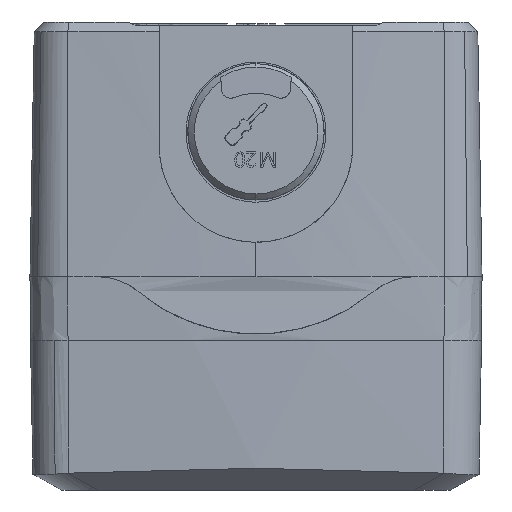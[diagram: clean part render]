
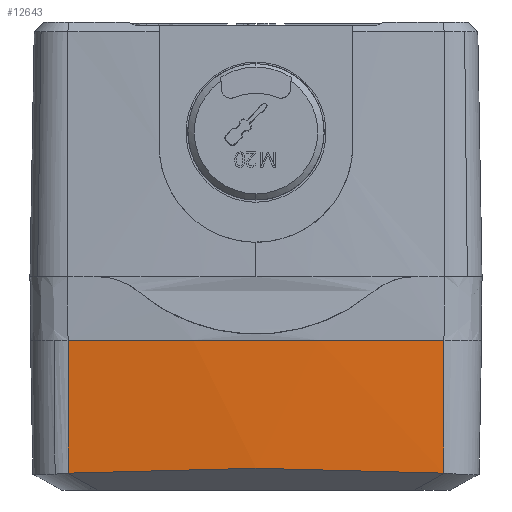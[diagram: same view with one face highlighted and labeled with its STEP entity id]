
A CAD part, left-side view. The second image highlights one B-rep face of the part: STEP entity #12643.
In plain terms, the highlighted conical face has half-angle 1 degrees and reference radius 316.019 mm.
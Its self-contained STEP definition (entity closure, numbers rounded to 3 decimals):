
#4983 = CARTESIAN_POINT ( 'NONE',  ( -141.262, 399.985, -18.854 ) ) ;
#5080 = AXIS2_PLACEMENT_3D ( 'NONE', #21200, #7363, #27659 ) ;
#6283 = VERTEX_POINT ( 'NONE', #9129 ) ;
#7363 = DIRECTION ( 'NONE',  ( 0., 0., 1. ) ) ;
#8539 = CARTESIAN_POINT ( 'NONE',  ( -141.262, 341.015, -18.854 ) ) ;
#9129 = CARTESIAN_POINT ( 'NONE',  ( -141.262, 341.015, -18.854 ) ) ;
#9230 = EDGE_CURVE ( 'NONE', #6283, #33980, #13439, .T. ) ;
#9890 = DIRECTION ( 'NONE',  ( 0., 0., -1. ) ) ;
#10694 = FACE_OUTER_BOUND ( 'NONE', #22405, .T. ) ;
#10970 = CARTESIAN_POINT ( 'NONE',  ( -141.625, 400.019, 2. ) ) ;
#11886 = EDGE_CURVE ( 'NONE', #32156, #38583, #31949, .T. ) ;
#12314 = CARTESIAN_POINT ( 'NONE',  ( -143.122, 380.358, -17.831 ) ) ;
#12393 = CARTESIAN_POINT ( 'NONE',  ( -141.625, 340.98, 2. ) ) ;
#12608 =( BOUNDED_CURVE ( )  B_SPLINE_CURVE ( 3, ( #4983, #12314, #42251, #8539 ),
 .UNSPECIFIED., .F., .F. ) 
 B_SPLINE_CURVE_WITH_KNOTS ( ( 4, 4 ),
 ( 6.189, 6.378 ),
 .UNSPECIFIED. ) 
 CURVE ( )  GEOMETRIC_REPRESENTATION_ITEM ( )  RATIONAL_B_SPLINE_CURVE ( ( 1., 0.997, 0.997, 1. ) ) 
 REPRESENTATION_ITEM ( '' )  );
#12643 = ADVANCED_FACE ( 'NONE', ( #10694 ), #40719, .T. ) ;
#13439 = LINE ( 'NONE', #30600, #24027 ) ;
#18816 = ORIENTED_EDGE ( 'NONE', *, *, #11886, .T. ) ;
#19932 = CARTESIAN_POINT ( 'NONE',  ( 173.013, 370.5, 2. ) ) ;
#21200 = CARTESIAN_POINT ( 'NONE',  ( 173.013, 370.5, 2. ) ) ;
#22332 = ORIENTED_EDGE ( 'NONE', *, *, #31489, .T. ) ;
#22405 = EDGE_LOOP ( 'NONE', ( #33558, #34686, #22332, #18816 ) ) ;
#23564 = VECTOR ( 'NONE', #24579, 1000. ) ;
#24027 = VECTOR ( 'NONE', #25788, 1000. ) ;
#24579 = DIRECTION ( 'NONE',  ( 0.017, -0.002, -1. ) ) ;
#25788 = DIRECTION ( 'NONE',  ( -0.017, -0.002, 1. ) ) ;
#27659 = DIRECTION ( 'NONE',  ( 1., 0., 0. ) ) ;
#30600 = CARTESIAN_POINT ( 'NONE',  ( -141.625, 340.981, 2. ) ) ;
#31322 = CARTESIAN_POINT ( 'NONE',  ( -141.262, 399.985, -18.854 ) ) ;
#31489 = EDGE_CURVE ( 'NONE', #33980, #32156, #34436, .T. ) ;
#31869 = EDGE_CURVE ( 'NONE', #38583, #6283, #12608, .T. ) ;
#31949 = LINE ( 'NONE', #10970, #23564 ) ;
#32156 = VERTEX_POINT ( 'NONE', #37963 ) ;
#33558 = ORIENTED_EDGE ( 'NONE', *, *, #31869, .T. ) ;
#33980 = VERTEX_POINT ( 'NONE', #12393 ) ;
#34436 = CIRCLE ( 'NONE', #40120, 316.019 ) ;
#34686 = ORIENTED_EDGE ( 'NONE', *, *, #9230, .T. ) ;
#36463 = DIRECTION ( 'NONE',  ( 1., 0., 0. ) ) ;
#37963 = CARTESIAN_POINT ( 'NONE',  ( -141.625, 400.02, 2. ) ) ;
#38583 = VERTEX_POINT ( 'NONE', #31322 ) ;
#40120 = AXIS2_PLACEMENT_3D ( 'NONE', #19932, #9890, #36463 ) ;
#40719 = CONICAL_SURFACE ( 'NONE', #5080, 316.019, 0.017 ) ;
#42251 = CARTESIAN_POINT ( 'NONE',  ( -143.122, 360.642, -17.831 ) ) ;
